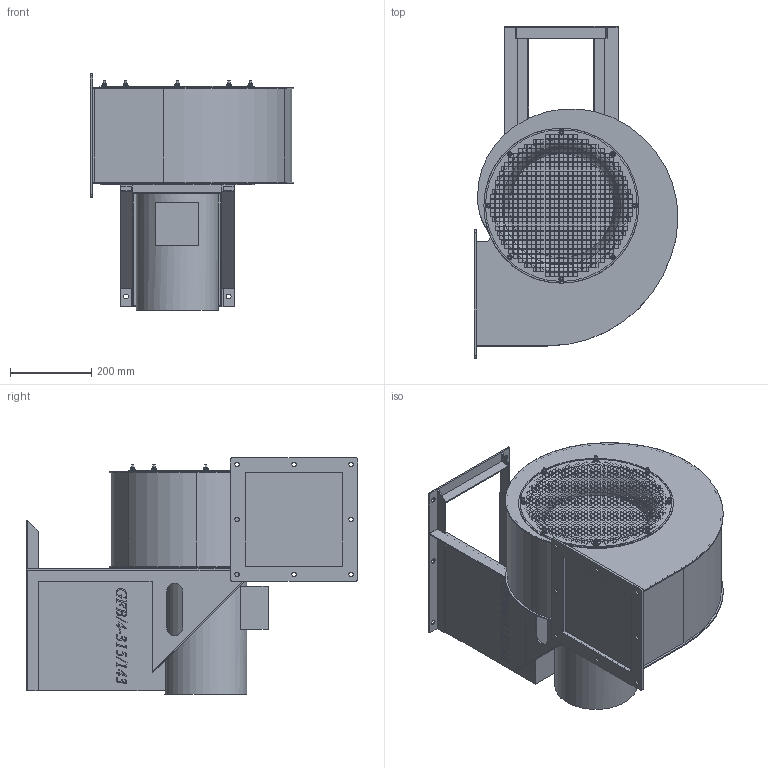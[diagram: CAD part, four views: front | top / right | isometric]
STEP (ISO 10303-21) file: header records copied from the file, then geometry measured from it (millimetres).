
FILE_DESCRIPTION(/* description */ (''),/* implementation_level */ '2;1');
FILE_NAME(/* name */ 'E:\Mariusz\Modele uproszczone\GFB\GFB_X_315_143 LG270 435030250\GFB_4_315_143 LG270 435030250\GFB_4_315_143 LG270 435030250.stp',/* time_stamp */ '2019-01-16T10:19:28+01:00',/* author */ ('M.Janczarek'),/* organization */ (''),/* preprocessor_version */ 'ST-DEVELOPER v16.13',/* originating_system */ 'Autodesk Inventor 2018',/* authorisation */ '');
FILE_SCHEMA (('AUTOMOTIVE_DESIGN { 1 0 10303 214 3 1 1 }'));
Length unit declared in the file: millimetre
Products named in the file (1): GFB_4_315_143 LG270 435030250
Bounding box: 502.35 x 818 x 583.87 mm (x, y, z)
Volume: 63636164.4 mm3; surface area: 2229566.2 mm2
Topology: 1 solids, 1 shells, 3998 faces, 11748 edges, 7735 vertices
Faces by surface type: plane 3590, bspline 279, cylinder 103, cone 24, torus 2
Full cylindrical faces by diameter (mm): 6 x16, 7.1 x8, 8 x8, 8.9 x8, 11 x8, 12 x6, 15 x2, 202 x1, 257 x1, 374 x1, 382 x2
Entity records: 137468 total; most frequent: CARTESIAN_POINT 27198, ORIENTED_EDGE 23218, DIRECTION 18912, EDGE_CURVE 11609, LINE 10438, VECTOR 10438, VERTEX_POINT 7683, EDGE_LOOP 5538
